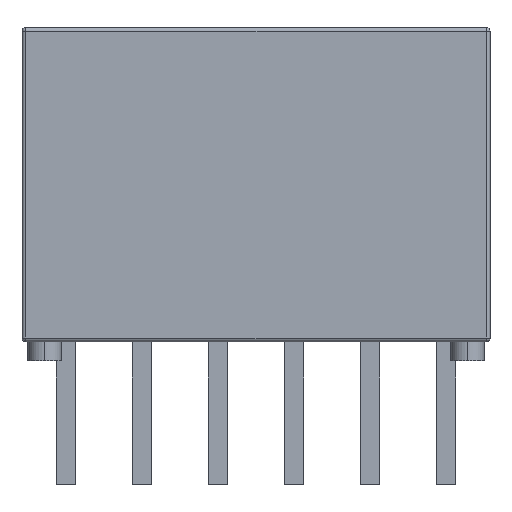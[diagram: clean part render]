
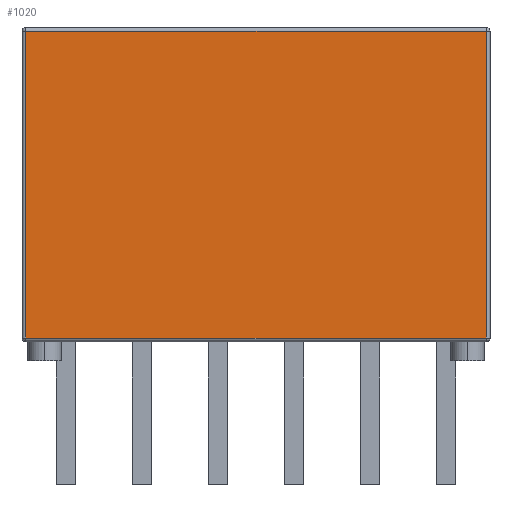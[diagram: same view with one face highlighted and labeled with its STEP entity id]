
A CAD part, top view. The second image highlights one B-rep face of the part: STEP entity #1020.
In plain terms, the highlighted planar face has unit normal (0, 0, 1).
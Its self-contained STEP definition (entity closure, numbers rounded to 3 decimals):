
#926 = VERTEX_POINT ( 'NONE', #5423 ) ;
#929 = ORIENTED_EDGE ( 'NONE', *, *, #1008, .T. ) ;
#1000 = VERTEX_POINT ( 'NONE', #5553 ) ;
#1008 = EDGE_CURVE ( 'NONE', #926, #1000, #5570, .T. ) ;
#1017 = VERTEX_POINT ( 'NONE', #5608 ) ;
#1018 = ORIENTED_EDGE ( 'NONE', *, *, #1036, .T. ) ;
#1020 = ADVANCED_FACE ( 'NONE', ( #5607 ), #5606, .F. ) ;
#1025 = EDGE_LOOP ( 'NONE', ( #1026, #1018, #929, #1067 ) ) ;
#1026 = ORIENTED_EDGE ( 'NONE', *, *, #1030, .T. ) ;
#1030 = EDGE_CURVE ( 'NONE', #1032, #1017, #5676, .T. ) ;
#1032 = VERTEX_POINT ( 'NONE', #5671 ) ;
#1036 = EDGE_CURVE ( 'NONE', #1017, #926, #5669, .T. ) ;
#1053 = EDGE_CURVE ( 'NONE', #1000, #1032, #5724, .T. ) ;
#1067 = ORIENTED_EDGE ( 'NONE', *, *, #1053, .T. ) ;
#5423 = CARTESIAN_POINT ( 'NONE',  ( -6.15, 0.1, 1.85 ) ) ;
#5553 = CARTESIAN_POINT ( 'NONE',  ( 6.15, 0.1, 1.85 ) ) ;
#5567 = DIRECTION ( 'NONE',  ( 1., 0., 0. ) ) ;
#5568 = VECTOR ( 'NONE', #5567, 1000. ) ;
#5569 = CARTESIAN_POINT ( 'NONE',  ( 6.25, 0.1, 1.85 ) ) ;
#5570 = LINE ( 'NONE', #5569, #5568 ) ;
#5601 = DIRECTION ( 'NONE',  ( -1., 0., 0. ) ) ;
#5602 = DIRECTION ( 'NONE',  ( 0., 0., -1. ) ) ;
#5603 = CARTESIAN_POINT ( 'NONE',  ( 6.25, 8.392, 1.85 ) ) ;
#5604 = AXIS2_PLACEMENT_3D ( 'NONE', #5603, #5602, #5601 ) ;
#5606 = PLANE ( 'NONE',  #5604 ) ;
#5607 = FACE_OUTER_BOUND ( 'NONE', #1025, .T. ) ;
#5608 = CARTESIAN_POINT ( 'NONE',  ( -6.15, 8.292, 1.85 ) ) ;
#5666 = DIRECTION ( 'NONE',  ( 0., -1., 0. ) ) ;
#5667 = VECTOR ( 'NONE', #5666, 1000. ) ;
#5668 = CARTESIAN_POINT ( 'NONE',  ( -6.15, 8.392, 1.85 ) ) ;
#5669 = LINE ( 'NONE', #5668, #5667 ) ;
#5671 = CARTESIAN_POINT ( 'NONE',  ( 6.15, 8.292, 1.85 ) ) ;
#5672 = DIRECTION ( 'NONE',  ( -1., 0., 0. ) ) ;
#5673 = VECTOR ( 'NONE', #5672, 1000. ) ;
#5675 = CARTESIAN_POINT ( 'NONE',  ( -6.25, 8.292, 1.85 ) ) ;
#5676 = LINE ( 'NONE', #5675, #5673 ) ;
#5721 = DIRECTION ( 'NONE',  ( 0., 1., 0. ) ) ;
#5722 = VECTOR ( 'NONE', #5721, 1000. ) ;
#5723 = CARTESIAN_POINT ( 'NONE',  ( 6.15, 8.392, 1.85 ) ) ;
#5724 = LINE ( 'NONE', #5723, #5722 ) ;
